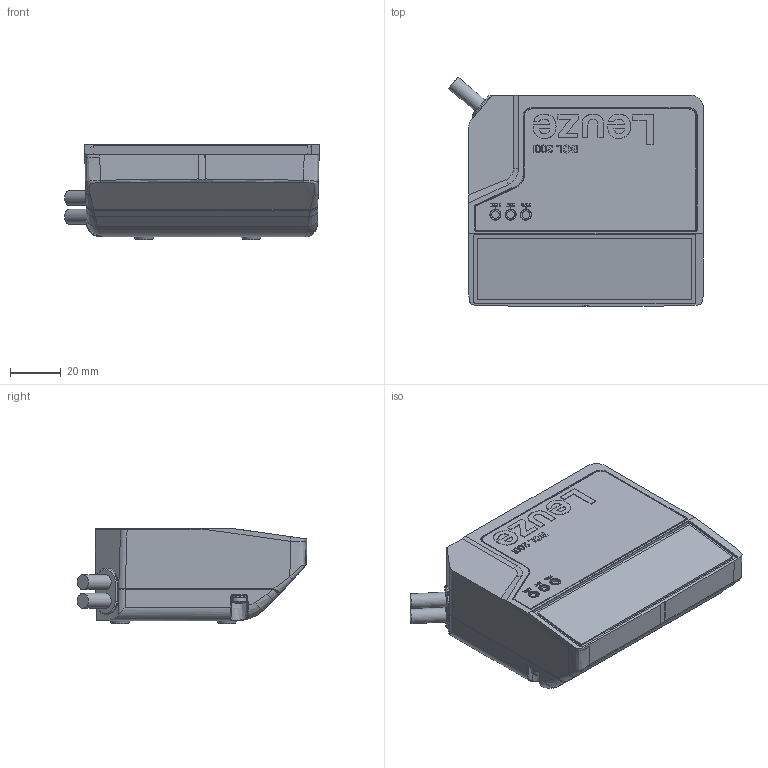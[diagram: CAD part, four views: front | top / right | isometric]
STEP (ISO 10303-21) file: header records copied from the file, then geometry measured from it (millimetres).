
FILE_DESCRIPTION(/* description */ (''),/* implementation_level */ '2;1');
FILE_NAME(/* name */ '3DCAD_BCL2x8i.stp',/* time_stamp */ '2020-10-07T12:46:59+02:00',/* author */ ('CC2'),/* organization */ ('Leuze electronic'),/* preprocessor_version */ 'ST-DEVELOPER v16',/* originating_system */ 'SIEMENS PLM Software NX 11.0',/* authorisation */ '');
FILE_SCHEMA (('AUTOMOTIVE_DESIGN { 1 0 10303 214 3 1 1 1 }'));
Length unit declared in the file: millimetre
Products named in the file (1): 19-103067_00_1-3DCAD_BCL2x8i
Bounding box: 100.06 x 90.14 x 37.62 mm (x, y, z)
Volume: 239702.2 mm3; surface area: 28297.8 mm2
Topology: 1 solids, 3 shells, 949 faces, 2414 edges, 1514 vertices
Faces by surface type: plane 466, cylinder 250, bspline 132, cone 44, extrusion 24, torus 23, sphere 10
Full cylindrical faces by diameter (mm): 3 x3, 3.3 x4, 4.1 x3, 4.34 x3, 5.6 x4, 5.8 x2
Entity records: 42531 total; most frequent: CARTESIAN_POINT 18669, ORIENTED_EDGE 4680, DIRECTION 4074, EDGE_CURVE 2340, VERTEX_POINT 1492, AXIS2_PLACEMENT_3D 1366, VECTOR 1342, LINE 1318
